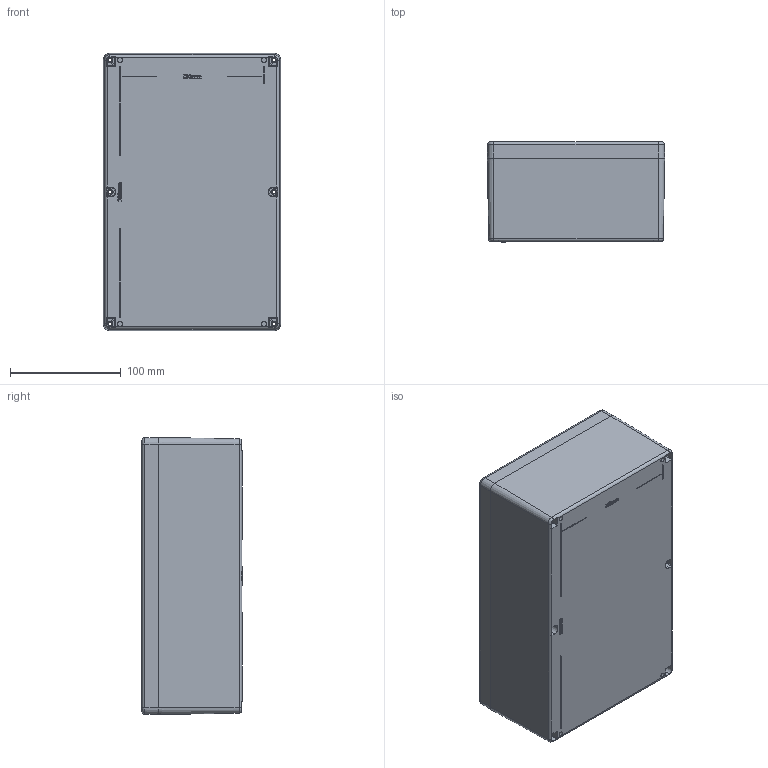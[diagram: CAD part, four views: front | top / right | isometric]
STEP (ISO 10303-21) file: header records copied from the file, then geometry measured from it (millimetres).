
FILE_DESCRIPTION (( 'STEP AP214' ), '1' );
FILE_NAME ('ZP 15 asm.STEP', '2014-10-27T11:39:50', ( '' ), ( '' ), 'SwSTEP 2.0', 'SolidWorks 2014', '' );
FILE_SCHEMA (( 'AUTOMOTIVE_DESIGN' ));
Length unit declared in the file: millimetre
Products named in the file (3): ZP 15 asm; ZP 15 Base; ZP 15 lid
Assembly tree (2 placements, depth 2):
  ZP 15 asm
    ZP 15 Base
    ZP 15 lid
Bounding box: 160 x 90.25 x 250 mm (x, y, z)
Volume: 417411.1 mm3; surface area: 333975.6 mm2
Topology: 2 solids, 2 shells, 1012 faces, 2749 edges, 1764 vertices
Faces by surface type: plane 559, cone 224, cylinder 119, bspline 96, torus 14
Entity records: 37079 total; most frequent: CARTESIAN_POINT 11908, ORIENTED_EDGE 5442, DIRECTION 4907, EDGE_CURVE 2721, VERTEX_POINT 1764, VECTOR 1757, LINE 1757, AXIS2_PLACEMENT_3D 1575
